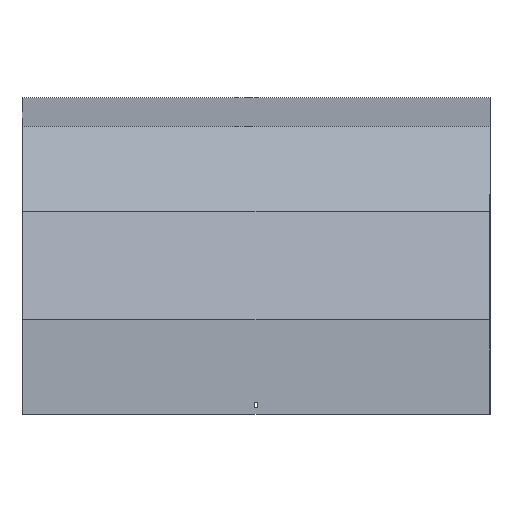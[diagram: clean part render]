
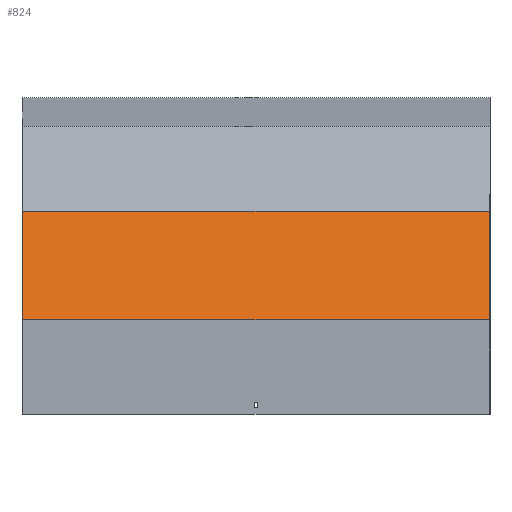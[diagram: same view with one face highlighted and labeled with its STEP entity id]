
A CAD part, top view. The second image highlights one B-rep face of the part: STEP entity #824.
In plain terms, the highlighted planar face has unit normal (0, 0.259, 0.966).
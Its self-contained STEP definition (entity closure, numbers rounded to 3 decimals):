
#1 = DIRECTION ( 'NONE',  ( 0., -0.966, 0.259 ) ) ;
#26 = AXIS2_PLACEMENT_3D ( 'NONE', #64, #1114, #412 ) ;
#28 = CARTESIAN_POINT ( 'NONE',  ( 401.5, -175.415, 494.514 ) ) ;
#39 = DIRECTION ( 'NONE',  ( -1., 0., 0. ) ) ;
#59 = VECTOR ( 'NONE', #1, 1000. ) ;
#64 = CARTESIAN_POINT ( 'NONE',  ( 401.5, -180.591, 495.901 ) ) ;
#68 = ORIENTED_EDGE ( 'NONE', *, *, #818, .F. ) ;
#122 = LINE ( 'NONE', #28, #679 ) ;
#151 = LINE ( 'NONE', #666, #1092 ) ;
#167 = VERTEX_POINT ( 'NONE', #489 ) ;
#209 = VERTEX_POINT ( 'NONE', #962 ) ;
#222 = ORIENTED_EDGE ( 'NONE', *, *, #689, .T. ) ;
#254 = LINE ( 'NONE', #599, #59 ) ;
#300 = CARTESIAN_POINT ( 'NONE',  ( 401.5, -361.831, 544.464 ) ) ;
#325 = CARTESIAN_POINT ( 'NONE',  ( 401.5, -175.415, 494.514 ) ) ;
#342 = ORIENTED_EDGE ( 'NONE', *, *, #893, .T. ) ;
#412 = DIRECTION ( 'NONE',  ( 0., 0.966, -0.259 ) ) ;
#489 = CARTESIAN_POINT ( 'NONE',  ( 401.5, -361.831, 544.464 ) ) ;
#528 = VECTOR ( 'NONE', #543, 1000. ) ;
#543 = DIRECTION ( 'NONE',  ( -1., 0., 0. ) ) ;
#549 = LINE ( 'NONE', #300, #528 ) ;
#599 = CARTESIAN_POINT ( 'NONE',  ( -401.5, -180.591, 495.901 ) ) ;
#628 = CARTESIAN_POINT ( 'NONE',  ( -401.5, -361.831, 544.464 ) ) ;
#666 = CARTESIAN_POINT ( 'NONE',  ( 401.5, -180.591, 495.901 ) ) ;
#679 = VECTOR ( 'NONE', #39, 1000. ) ;
#689 = EDGE_CURVE ( 'NONE', #789, #209, #122, .T. ) ;
#692 = EDGE_CURVE ( 'NONE', #167, #1027, #549, .T. ) ;
#735 = EDGE_LOOP ( 'NONE', ( #342, #821, #68, #222 ) ) ;
#760 = FACE_OUTER_BOUND ( 'NONE', #735, .T. ) ;
#781 = DIRECTION ( 'NONE',  ( 0., -0.966, 0.259 ) ) ;
#789 = VERTEX_POINT ( 'NONE', #325 ) ;
#818 = EDGE_CURVE ( 'NONE', #789, #167, #151, .T. ) ;
#821 = ORIENTED_EDGE ( 'NONE', *, *, #692, .F. ) ;
#824 = ADVANCED_FACE ( 'NONE', ( #760 ), #1119, .F. ) ;
#893 = EDGE_CURVE ( 'NONE', #209, #1027, #254, .T. ) ;
#962 = CARTESIAN_POINT ( 'NONE',  ( -401.5, -175.415, 494.514 ) ) ;
#1027 = VERTEX_POINT ( 'NONE', #628 ) ;
#1092 = VECTOR ( 'NONE', #781, 1000. ) ;
#1114 = DIRECTION ( 'NONE',  ( 0., -0.259, -0.966 ) ) ;
#1119 = PLANE ( 'NONE',  #26 ) ;
